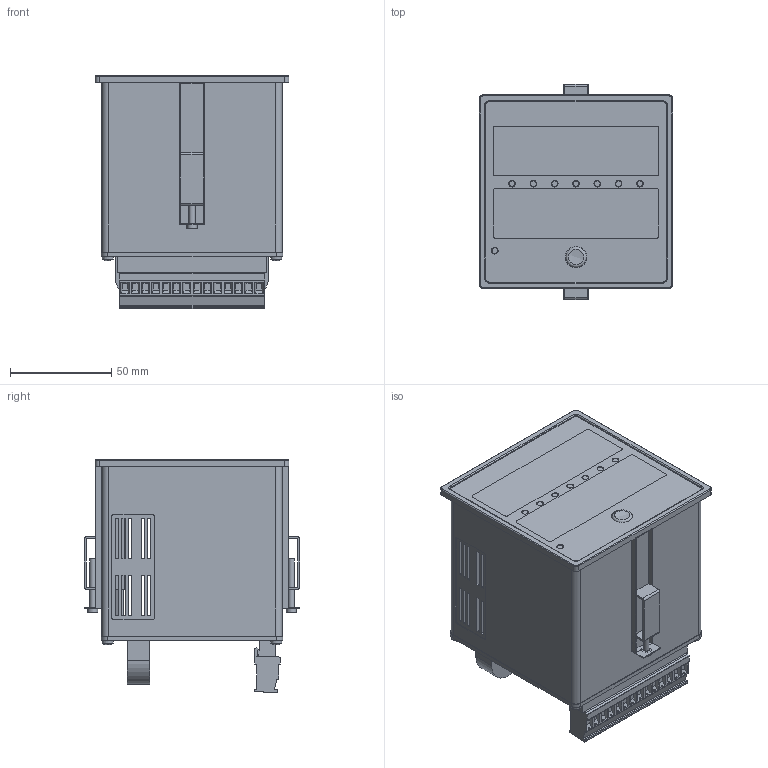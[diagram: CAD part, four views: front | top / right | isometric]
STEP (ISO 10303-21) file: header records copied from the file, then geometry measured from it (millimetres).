
FILE_DESCRIPTION(/* description */ (''),/* implementation_level */ '2;1');
FILE_NAME(/* name */ 'D:\WorkIMT\Project IMT\ИВА (ИРИС)\На сайт\МТ.ИРИС.01.stp',/* time_stamp */ '2020-05-07T15:35:27+03:00',/* author */ ('Пользователь'),/* organization */ (''),/* preprocessor_version */ 'ST-DEVELOPER v18',/* originating_system */ 'Autodesk Inventor 2020',/* authorisation */ '');
FILE_SCHEMA (('AUTOMOTIVE_DESIGN { 1 0 10303 214 3 1 1 }'));
Length unit declared in the file: millimetre
Products named in the file (20): МТ.ИРИС.01; DIN 7985 (H) - M3x6-H; Колпачек кнопки 
SC010-G; Световод FIX-LEM-167; PCHSN-50; PCHSN-17; МТ.ИРИС.КОРПУС.
СБОРКА; Корпус_9698_310719; Корпус_9698_крышка; DIN EN ISO 7049 - ST2,9 x 6,5 - C - H; DIN 125-2 - A 3,2A; DIN 127 - A 3; МТ.ИРИС.ВСТАВКА.
01; 2EDGKB-5.08-14P-14-00A(H); Submodel-2EDGVC-5.08-14P-14-00AH_part_2EDGVC-5.08-14P-14-00AH; Submodel-D_area_106_MP_Tech_Novosib11_IVAmentorMT_IVA_PWR_v1BLayout3D
ImportedPartModelsMSTBVA 2_comma_5 14-G-5_comma_08 - 1755859.stp; MSTBVA 2,5 14-G-5,08 - 1755859.stp; Submodel-AC1020_part_AC-1020; Submodel-D_area_106_MP_Tech_Novosib11_IVAmentorMT_IVA_PWR_v1BLayout3D
ImportedPartModelsAC-1005.step; AC-1005.step
Assembly tree (47 placements, depth 4):
  МТ.ИРИС.01
    DIN 7985 (H) - M3x6-H  x4
    PCHSN-50  x4
    PCHSN-17  x4
    Колпачек кнопки 
SC010-G
    Световод FIX-LEM-167  x8
    МТ.ИРИС.КОРПУС.
СБОРКА
      Корпус_9698_310719
      Корпус_9698_крышка
      DIN EN ISO 7049 - ST2,9 x 6,5 - C - H  x4
    DIN 125-2 - A 3,2A  x4
    DIN 127 - A 3  x4
    МТ.ИРИС.ВСТАВКА.
01  x2
    2EDGKB-5.08-14P-14-00A(H)
    Submodel-2EDGVC-5.08-14P-14-00AH_part_2EDGVC-5.08-14P-14-00AH
      Submodel-D_area_106_MP_Tech_Novosib11_IVAmentorMT_IVA_PWR_v1BLayout3D
ImportedPartModelsMSTBVA 2_comma_5 14-G-5_comma_08 - 1755859.stp
        MSTBVA 2,5 14-G-5,08 - 1755859.stp
    Submodel-AC1020_part_AC-1020  x3
      Submodel-D_area_106_MP_Tech_Novosib11_IVAmentorMT_IVA_PWR_v1BLayout3D
ImportedPartModelsAC-1005.step
        AC-1005.step
Bounding box: 95.5 x 106 x 114.8 mm (x, y, z)
Volume: 143951.6 mm3; surface area: 132390.5 mm2
Topology: 42 solids, 42 shells, 2285 faces, 5680 edges, 3728 vertices
Faces by surface type: plane 1675, cylinder 381, cone 150, sphere 50, torus 29
Full cylindrical faces by diameter (mm): 0.434 x1, 0.457 x1, 0.813 x9, 1.4 x28, 2.5 x8, 2.75 x4, 2.8 x42, 2.9 x4, 3 x32, 3.2 x16, 3.3 x8, 3.4 x1, 3.783 x14, 4 x14, 5 x2, 5.6 x1, 6.5 x4, 7 x4, 8 x1, 9.5 x3, 10 x1, 10.5 x1
Entity records: 59199 total; most frequent: CARTESIAN_POINT 10255, DIRECTION 9660, ORIENTED_EDGE 9436, EDGE_CURVE 4718, LINE 3524, VECTOR 3524, VERTEX_POINT 3087, AXIS2_PLACEMENT_3D 3068
